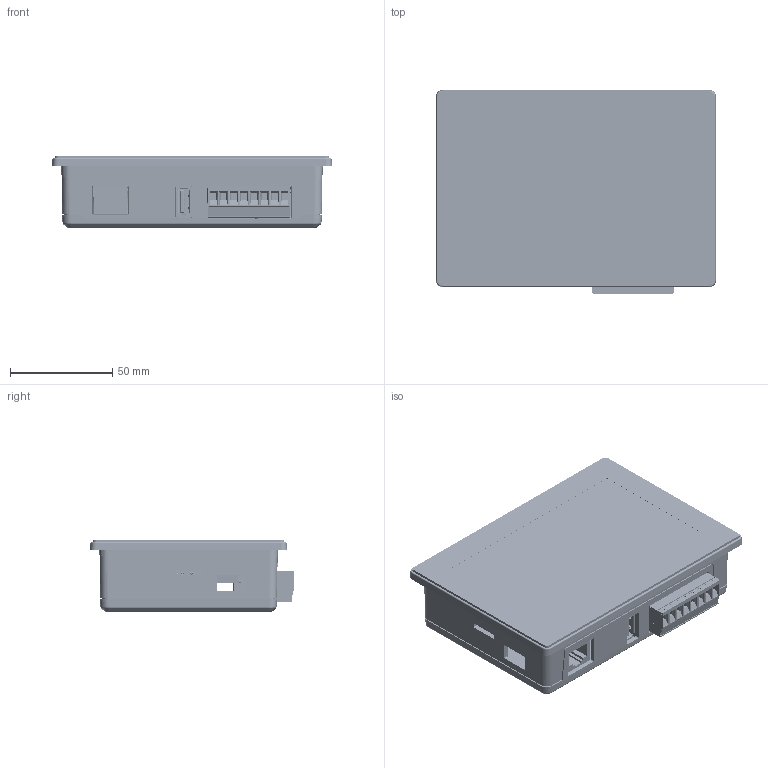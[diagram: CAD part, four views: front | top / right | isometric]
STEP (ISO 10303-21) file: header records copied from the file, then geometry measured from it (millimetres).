
FILE_DESCRIPTION(/* description */ (''),/* implementation_level */ '2;1');
FILE_NAME(/* name */ '5p_15102024_CTP_web.stp',/* time_stamp */ '2025-04-30T17:06:21+02:00',/* author */ ('ut3'),/* organization */ (''),/* preprocessor_version */ 'ST-DEVELOPER v20',/* originating_system */ 'Autodesk Inventor 2025',/* authorisation */ '');
FILE_SCHEMA (('AUTOMOTIVE_DESIGN { 1 0 10303 214 3 1 1 }'));
Products named in the file (1): 5p_15102024_CTP_web
Bounding box: 136.56 x 99.41 x 35.1 mm (x, y, z)
Volume: 130464.8 mm3; surface area: 167932.8 mm2
Topology: 107 solids, 362 shells, 10018 faces, 27629 edges, 17951 vertices
Faces by surface type: plane 6939, cylinder 2220, bspline 339, sphere 232, cone 159, torus 129
Full cylindrical faces by diameter (mm): 0.345 x1, 0.364 x2, 0.38 x1, 0.4 x9, 0.45 x8, 0.5 x4, 0.625 x1, 0.635 x1, 0.65 x1, 0.8 x7, 1 x4, 1.438 x1, 1.538 x1, 2.02 x1, 2.35 x2, 2.9 x60, 3 x12, 3.2 x4, 3.821 x8, 4 x9, 5 x5, 6.4 x2, 7 x2, 22 x1
Entity records: 377686 total; most frequent: CARTESIAN_POINT 112195, ORIENTED_EDGE 53768, DIRECTION 51154, EDGE_CURVE 27481, LINE 20922, VECTOR 20922, VERTEX_POINT 17953, AXIS2_PLACEMENT_3D 15116
